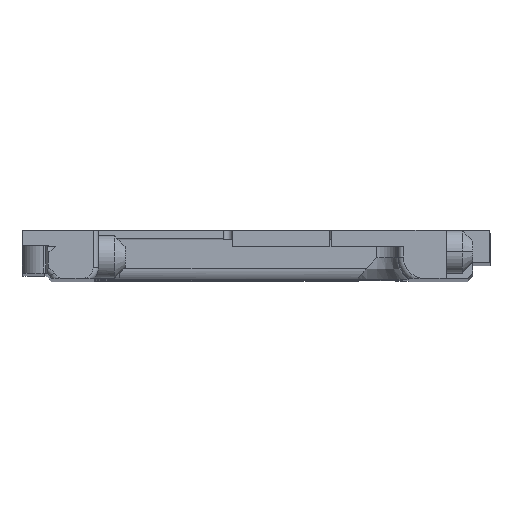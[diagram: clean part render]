
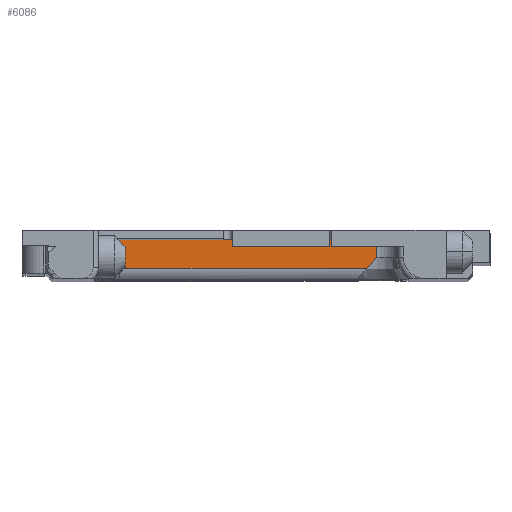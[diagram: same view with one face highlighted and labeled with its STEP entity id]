
A CAD part, top view. The second image highlights one B-rep face of the part: STEP entity #6086.
In plain terms, the highlighted planar face has unit normal (0, 0, 1).
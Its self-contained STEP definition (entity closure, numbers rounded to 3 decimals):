
#2081=CARTESIAN_POINT('',(190.961,163.297,137.8));
#2082=VERTEX_POINT('',#2081);
#2107=CARTESIAN_POINT('',(214.024,163.297,137.8));
#2108=VERTEX_POINT('',#2107);
#2118=CARTESIAN_POINT('',(214.024,163.297,137.8));
#2119=DIRECTION('',(-1.0,0.0,0.0));
#2120=VECTOR('',#2119,23.063);
#2121=LINE('',#2118,#2120);
#2122=EDGE_CURVE('',#2108,#2082,#2121,.T.);
#2173=CARTESIAN_POINT('',(214.961,164.297,137.8));
#2174=VERTEX_POINT('',#2173);
#2182=CARTESIAN_POINT('',(214.961,164.297,137.8));
#2183=CARTESIAN_POINT('',(214.674,163.977,137.8));
#2184=CARTESIAN_POINT('',(214.361,163.625,137.8));
#2185=CARTESIAN_POINT('',(214.024,163.297,137.8));
#2186=B_SPLINE_CURVE_WITH_KNOTS('',3,(#2182,#2183,#2184,#2185),.UNSPECIFIED.,.F.,.U.,(4,4),(0.0,0.129),.UNSPECIFIED.);
#2187=EDGE_CURVE('',#2174,#2108,#2186,.T.);
#6036=CARTESIAN_POINT('',(190.961,165.997,137.8));
#6037=VERTEX_POINT('',#6036);
#6038=CARTESIAN_POINT('',(190.961,163.297,137.8));
#6039=DIRECTION('',(0.0,1.0,0.0));
#6040=VECTOR('',#6039,2.7);
#6041=LINE('',#6038,#6040);
#6042=EDGE_CURVE('',#2082,#6037,#6041,.T.);
#6062=CARTESIAN_POINT('',(190.961,161.797,137.8));
#6063=DIRECTION('',(0.0,0.0,-1.0));
#6064=DIRECTION('',(-1.0,0.0,0.0));
#6065=AXIS2_PLACEMENT_3D('',#6062,#6063,#6064);
#6066=PLANE('',#6065);
#6067=ORIENTED_EDGE('',*,*,#2187,.F.);
#6068=CARTESIAN_POINT('',(214.961,165.997,137.8));
#6069=VERTEX_POINT('',#6068);
#6070=CARTESIAN_POINT('',(214.961,164.297,137.8));
#6071=DIRECTION('',(0.0,1.0,0.0));
#6072=VECTOR('',#6071,1.7);
#6073=LINE('',#6070,#6072);
#6074=EDGE_CURVE('',#2174,#6069,#6073,.T.);
#6075=ORIENTED_EDGE('',*,*,#6074,.T.);
#6076=CARTESIAN_POINT('',(190.961,165.997,137.8));
#6077=DIRECTION('',(1.0,0.0,0.0));
#6078=VECTOR('',#6077,24.);
#6079=LINE('',#6076,#6078);
#6080=EDGE_CURVE('',#6037,#6069,#6079,.T.);
#6081=ORIENTED_EDGE('',*,*,#6080,.F.);
#6082=ORIENTED_EDGE('',*,*,#6042,.F.);
#6083=ORIENTED_EDGE('',*,*,#2122,.F.);
#6084=EDGE_LOOP('',(#6067,#6075,#6081,#6082,#6083));
#6085=FACE_OUTER_BOUND('',#6084,.T.);
#6086=ADVANCED_FACE('',(#6085),#6066,.F.);
